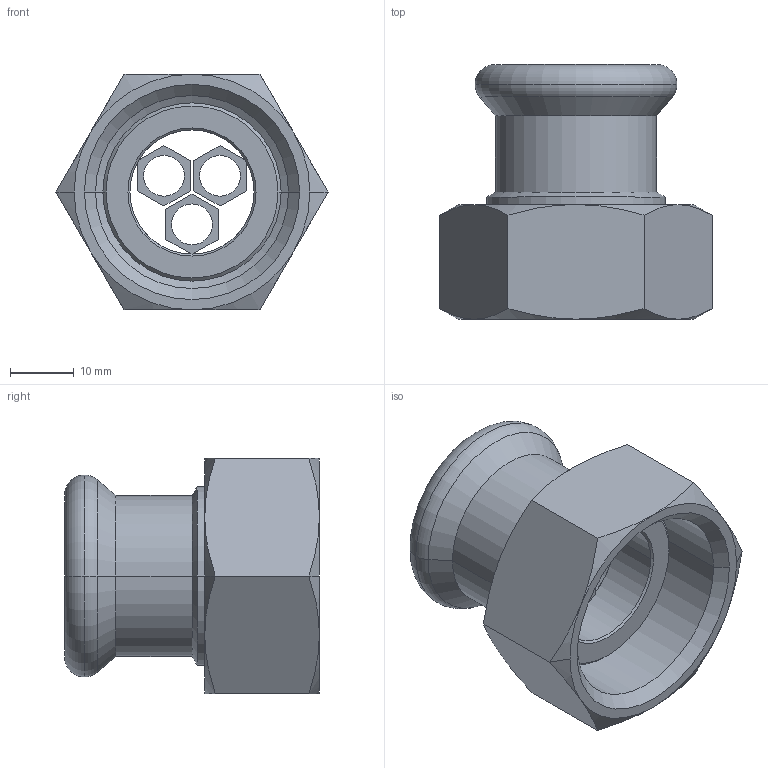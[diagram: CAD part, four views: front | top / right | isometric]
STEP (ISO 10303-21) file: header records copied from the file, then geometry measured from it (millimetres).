
FILE_DESCRIPTION(('OneSpaceDesigner STEP Export'),'2;1');
FILE_NAME('R2704 22xG1.stp','2010-06-09T 9:45:42',(''),(''),'OneSpace Designer STEP processor for AP214 (Solid Model)','OneSpace Modeling 15.00A 14-Mar-2007 (C) CoCreate Software GmbH','');
FILE_SCHEMA(('AUTOMOTIVE_DESIGN { 1 0 10303 214 1 1 1 1 }'));
Length unit declared in the file: millimetre
Products named in the file (2): R2704_22xG1
Assembly tree (1 placements, depth 2):
  R2704_22xG1
    R2704_22xG1
Bounding box: 42.72 x 40 x 37 mm (x, y, z)
Volume: 15177.5 mm3; surface area: 10465.4 mm2
Topology: 1 solids, 1 shells, 110 faces, 275 edges, 170 vertices
Faces by surface type: plane 38, cone 37, cylinder 27, torus 8
Entity records: 3809 total; most frequent: CARTESIAN_POINT 1496, ORIENTED_EDGE 550, DIRECTION 359, EDGE_CURVE 275, VERTEX_POINT 170, VECTOR 133, LINE 133, EDGE_LOOP 121
